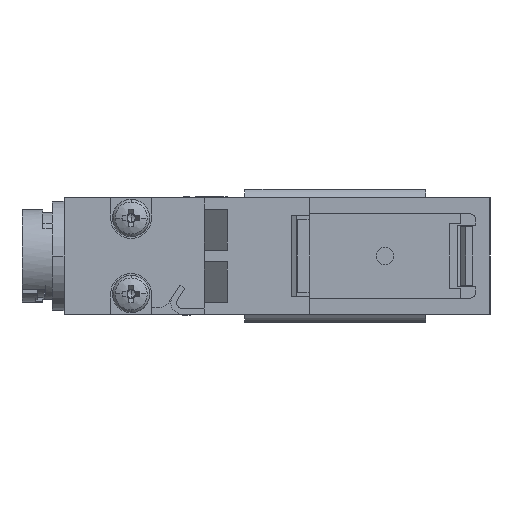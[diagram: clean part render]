
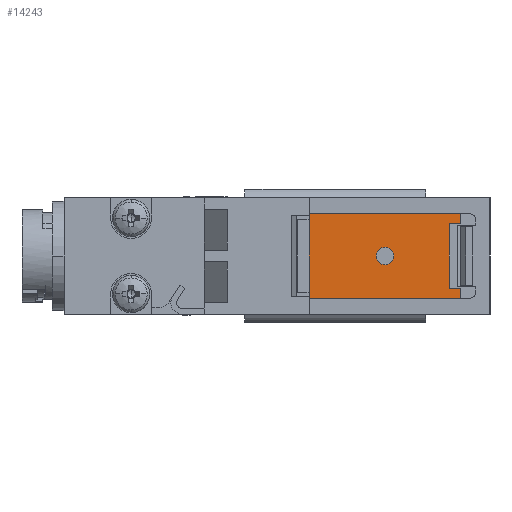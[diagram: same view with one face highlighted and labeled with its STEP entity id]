
A CAD part, left-side view. The second image highlights one B-rep face of the part: STEP entity #14243.
In plain terms, the highlighted planar face has unit normal (-1, 0, 0) as drawn and (0, 0, 1) by its records, which use the part's own axes.
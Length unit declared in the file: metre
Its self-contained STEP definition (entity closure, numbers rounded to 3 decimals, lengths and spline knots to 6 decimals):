
#195 = VECTOR ( 'NONE', #11349, 1. ) ;
#594 = LINE ( 'NONE', #2512, #195 ) ;
#1001 = VERTEX_POINT ( 'NONE', #14771 ) ;
#1347 = DIRECTION ( 'NONE',  ( 0., -1., 0. ) ) ;
#1437 = VECTOR ( 'NONE', #4628, 1. ) ;
#1441 = DIRECTION ( 'NONE',  ( 0., -1., 0. ) ) ;
#1470 = EDGE_CURVE ( 'NONE', #4814, #5177, #12166, .T. ) ;
#1820 = VERTEX_POINT ( 'NONE', #15929 ) ;
#1988 = CARTESIAN_POINT ( 'NONE',  ( 0., 0.0101, 0.006 ) ) ;
#2136 = CARTESIAN_POINT ( 'NONE',  ( -0.00075, 0.0101, 0.006 ) ) ;
#2352 = FACE_BOUND ( 'NONE', #11294, .T. ) ;
#2512 = CARTESIAN_POINT ( 'NONE',  ( 0., 0.0046, 0.006 ) ) ;
#2646 = DIRECTION ( 'NONE',  ( 1., 0., 0. ) ) ;
#2835 = LINE ( 'NONE', #13982, #5790 ) ;
#2884 = LINE ( 'NONE', #5843, #5838 ) ;
#2909 = CARTESIAN_POINT ( 'NONE',  ( 0.00275, 0.0036, 0.006 ) ) ;
#3230 = CARTESIAN_POINT ( 'NONE',  ( 0.00275, 0.0046, 0.006 ) ) ;
#3289 = VERTEX_POINT ( 'NONE', #14763 ) ;
#4263 = DIRECTION ( 'NONE',  ( -1., 0., 0. ) ) ;
#4377 = EDGE_CURVE ( 'NONE', #12202, #7903, #9639, .T. ) ;
#4501 = ORIENTED_EDGE ( 'NONE', *, *, #14710, .T. ) ;
#4628 = DIRECTION ( 'NONE',  ( 1., 0., 0. ) ) ;
#4814 = VERTEX_POINT ( 'NONE', #3230 ) ;
#5177 = VERTEX_POINT ( 'NONE', #2909 ) ;
#5240 = CARTESIAN_POINT ( 'NONE',  ( 0., 0.0101, 0.006 ) ) ;
#5251 = ORIENTED_EDGE ( 'NONE', *, *, #4377, .F. ) ;
#5396 = CARTESIAN_POINT ( 'NONE',  ( -0.00275, 0.0041, 0.006 ) ) ;
#5524 = ORIENTED_EDGE ( 'NONE', *, *, #6191, .F. ) ;
#5790 = VECTOR ( 'NONE', #2646, 1. ) ;
#5798 = CARTESIAN_POINT ( 'NONE',  ( -0.003625, 0.0036, 0.006 ) ) ;
#5838 = VECTOR ( 'NONE', #10462, 1. ) ;
#5843 = CARTESIAN_POINT ( 'NONE',  ( -0.003625, 0.0101, 0.006 ) ) ;
#6006 = DIRECTION ( 'NONE',  ( 1., 0., 0. ) ) ;
#6191 = EDGE_CURVE ( 'NONE', #11472, #1820, #2884, .T. ) ;
#6361 = VERTEX_POINT ( 'NONE', #15110 ) ;
#6480 = LINE ( 'NONE', #5396, #16227 ) ;
#6527 = DIRECTION ( 'NONE',  ( 1., 0., 0. ) ) ;
#6561 = AXIS2_PLACEMENT_3D ( 'NONE', #9302, #11854, #4263 ) ;
#6873 = VECTOR ( 'NONE', #1441, 1. ) ;
#7349 = DIRECTION ( 'NONE',  ( 1., 0., 0. ) ) ;
#7583 = CARTESIAN_POINT ( 'NONE',  ( 0.00275, 0.0041, 0.006 ) ) ;
#7755 = LINE ( 'NONE', #10958, #1437 ) ;
#7903 = VERTEX_POINT ( 'NONE', #14354 ) ;
#8024 = EDGE_CURVE ( 'NONE', #1820, #3289, #11927, .T. ) ;
#8570 = CARTESIAN_POINT ( 'NONE',  ( -0.00275, 0.0036, 0.006 ) ) ;
#8610 = CARTESIAN_POINT ( 'NONE',  ( 0., 0.0166, 0.006 ) ) ;
#8665 = FACE_OUTER_BOUND ( 'NONE', #12158, .T. ) ;
#9018 = CARTESIAN_POINT ( 'NONE',  ( 0.003625, 0.0101, 0.006 ) ) ;
#9209 = ORIENTED_EDGE ( 'NONE', *, *, #13080, .F. ) ;
#9302 = CARTESIAN_POINT ( 'NONE',  ( 0.003625, 0.0036, 0.006 ) ) ;
#9639 = CIRCLE ( 'NONE', #10579, 0.00075 ) ;
#9846 = ORIENTED_EDGE ( 'NONE', *, *, #11125, .T. ) ;
#10256 = LINE ( 'NONE', #9018, #6873 ) ;
#10294 = VERTEX_POINT ( 'NONE', #8570 ) ;
#10306 = AXIS2_PLACEMENT_3D ( 'NONE', #5240, #14117, #6527 ) ;
#10462 = DIRECTION ( 'NONE',  ( 0., 1., 0. ) ) ;
#10509 = DIRECTION ( 'NONE',  ( 0., 1., 0. ) ) ;
#10579 = AXIS2_PLACEMENT_3D ( 'NONE', #1988, #14893, #6006 ) ;
#10849 = ORIENTED_EDGE ( 'NONE', *, *, #1470, .T. ) ;
#10958 = CARTESIAN_POINT ( 'NONE',  ( 0.003188, 0.0036, 0.006 ) ) ;
#11025 = ORIENTED_EDGE ( 'NONE', *, *, #14640, .F. ) ;
#11125 = EDGE_CURVE ( 'NONE', #11472, #10294, #2835, .T. ) ;
#11294 = EDGE_LOOP ( 'NONE', ( #11339, #5251 ) ) ;
#11339 = ORIENTED_EDGE ( 'NONE', *, *, #16323, .F. ) ;
#11349 = DIRECTION ( 'NONE',  ( -1., 0., 0. ) ) ;
#11472 = VERTEX_POINT ( 'NONE', #5798 ) ;
#11504 = EDGE_CURVE ( 'NONE', #5177, #6361, #7755, .T. ) ;
#11532 = VECTOR ( 'NONE', #7349, 1. ) ;
#11854 = DIRECTION ( 'NONE',  ( 0., 0., -1. ) ) ;
#11927 = LINE ( 'NONE', #8610, #11532 ) ;
#11990 = ORIENTED_EDGE ( 'NONE', *, *, #11504, .T. ) ;
#12158 = EDGE_LOOP ( 'NONE', ( #4501, #9209, #10849, #11990, #11025, #16292, #5524, #9846 ) ) ;
#12166 = LINE ( 'NONE', #7583, #12972 ) ;
#12202 = VERTEX_POINT ( 'NONE', #2136 ) ;
#12972 = VECTOR ( 'NONE', #1347, 1. ) ;
#13080 = EDGE_CURVE ( 'NONE', #4814, #1001, #594, .T. ) ;
#13982 = CARTESIAN_POINT ( 'NONE',  ( -0.003188, 0.0036, 0.006 ) ) ;
#14117 = DIRECTION ( 'NONE',  ( 0., 0., 1. ) ) ;
#14243 = ADVANCED_FACE ( 'NONE', ( #2352, #8665 ), #15647, .F. ) ;
#14354 = CARTESIAN_POINT ( 'NONE',  ( 0.00075, 0.0101, 0.006 ) ) ;
#14640 = EDGE_CURVE ( 'NONE', #3289, #6361, #10256, .T. ) ;
#14710 = EDGE_CURVE ( 'NONE', #10294, #1001, #6480, .T. ) ;
#14763 = CARTESIAN_POINT ( 'NONE',  ( 0.003625, 0.0166, 0.006 ) ) ;
#14771 = CARTESIAN_POINT ( 'NONE',  ( -0.00275, 0.0046, 0.006 ) ) ;
#14893 = DIRECTION ( 'NONE',  ( 0., 0., 1. ) ) ;
#15110 = CARTESIAN_POINT ( 'NONE',  ( 0.003625, 0.0036, 0.006 ) ) ;
#15647 = PLANE ( 'NONE',  #6561 ) ;
#15929 = CARTESIAN_POINT ( 'NONE',  ( -0.003625, 0.0166, 0.006 ) ) ;
#16168 = CIRCLE ( 'NONE', #10306, 0.00075 ) ;
#16227 = VECTOR ( 'NONE', #10509, 1. ) ;
#16292 = ORIENTED_EDGE ( 'NONE', *, *, #8024, .F. ) ;
#16323 = EDGE_CURVE ( 'NONE', #7903, #12202, #16168, .T. ) ;
